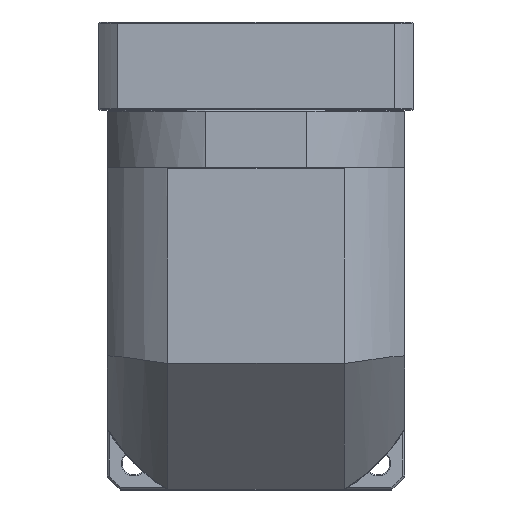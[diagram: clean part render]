
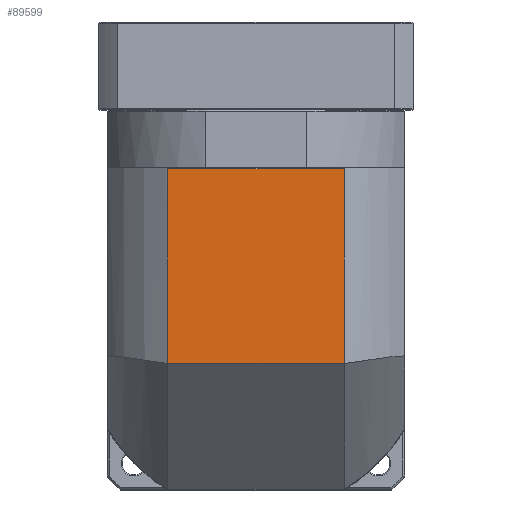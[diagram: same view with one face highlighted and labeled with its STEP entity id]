
A CAD part, top view. The second image highlights one B-rep face of the part: STEP entity #89599.
In plain terms, the highlighted planar face has unit normal (0, 0, 1).
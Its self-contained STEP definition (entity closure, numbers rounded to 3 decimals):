
#1687 = EDGE_CURVE ( 'NONE', #71454, #23482, #65164, .T. ) ;
#6416 = CARTESIAN_POINT ( 'NONE',  ( -146.006, 52.863, 87.823 ) ) ;
#8356 = AXIS2_PLACEMENT_3D ( 'NONE', #139703, #108219, #140185 ) ;
#11589 = CARTESIAN_POINT ( 'NONE',  ( -146.006, 145.863, 87.823 ) ) ;
#14684 = ORIENTED_EDGE ( 'NONE', *, *, #49908, .T. ) ;
#23482 = VERTEX_POINT ( 'NONE', #53310 ) ;
#24340 = LINE ( 'NONE', #96320, #32779 ) ;
#25210 = DIRECTION ( 'NONE',  ( 1., 0., 0. ) ) ;
#30210 = VECTOR ( 'NONE', #134473, 1000. ) ;
#31246 = DIRECTION ( 'NONE',  ( 0., 1., 0. ) ) ;
#32779 = VECTOR ( 'NONE', #31246, 1000. ) ;
#33171 = CARTESIAN_POINT ( 'NONE',  ( -61.976, -211.935, 87.823 ) ) ;
#36346 = VECTOR ( 'NONE', #109152, 1000. ) ;
#37008 = CARTESIAN_POINT ( 'NONE',  ( -174.991, 145.863, 87.823 ) ) ;
#49908 = EDGE_CURVE ( 'NONE', #75888, #23482, #76078, .T. ) ;
#52389 = EDGE_CURVE ( 'NONE', #75888, #110090, #24340, .T. ) ;
#53310 = CARTESIAN_POINT ( 'NONE',  ( -61.976, 52.863, 87.823 ) ) ;
#65164 = LINE ( 'NONE', #33171, #36346 ) ;
#65392 = ORIENTED_EDGE ( 'NONE', *, *, #1687, .F. ) ;
#71454 = VERTEX_POINT ( 'NONE', #100255 ) ;
#75888 = VERTEX_POINT ( 'NONE', #6416 ) ;
#76078 = LINE ( 'NONE', #132630, #108360 ) ;
#77557 = FACE_OUTER_BOUND ( 'NONE', #118399, .T. ) ;
#83195 = ORIENTED_EDGE ( 'NONE', *, *, #107275, .F. ) ;
#89599 = ADVANCED_FACE ( 'NONE', ( #77557 ), #95907, .F. ) ;
#91276 = LINE ( 'NONE', #37008, #30210 ) ;
#95907 = PLANE ( 'NONE',  #8356 ) ;
#96320 = CARTESIAN_POINT ( 'NONE',  ( -146.006, -211.935, 87.823 ) ) ;
#100255 = CARTESIAN_POINT ( 'NONE',  ( -61.976, 145.863, 87.823 ) ) ;
#107275 = EDGE_CURVE ( 'NONE', #110090, #71454, #91276, .T. ) ;
#108219 = DIRECTION ( 'NONE',  ( 0., 0., -1. ) ) ;
#108360 = VECTOR ( 'NONE', #25210, 1000. ) ;
#109152 = DIRECTION ( 'NONE',  ( 0., -1., 0. ) ) ;
#110090 = VERTEX_POINT ( 'NONE', #11589 ) ;
#118399 = EDGE_LOOP ( 'NONE', ( #65392, #83195, #124699, #14684 ) ) ;
#124699 = ORIENTED_EDGE ( 'NONE', *, *, #52389, .F. ) ;
#132630 = CARTESIAN_POINT ( 'NONE',  ( -174.991, 52.863, 87.823 ) ) ;
#134473 = DIRECTION ( 'NONE',  ( 1., 0., 0. ) ) ;
#139703 = CARTESIAN_POINT ( 'NONE',  ( -174.991, 146.363, 87.823 ) ) ;
#140185 = DIRECTION ( 'NONE',  ( 1., 0., 0. ) ) ;
